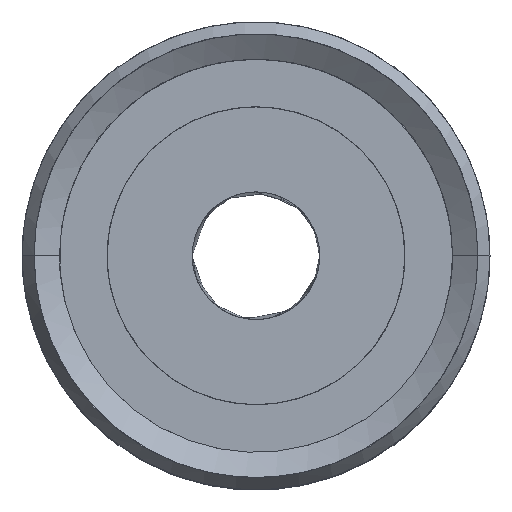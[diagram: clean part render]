
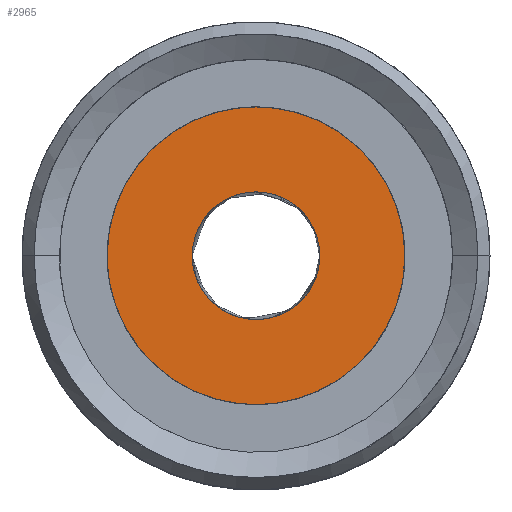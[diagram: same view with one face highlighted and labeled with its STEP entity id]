
A CAD part, top view. The second image highlights one B-rep face of the part: STEP entity #2965.
In plain terms, the highlighted planar face has unit normal (0, 0, 1) as drawn and (1, 0, 0) by its records, which use the part's own axes.
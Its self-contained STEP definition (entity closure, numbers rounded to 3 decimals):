
#15=PLANE('',#11132);
#40=FACE_BOUND('',#3463,.T.);
#2965=ADVANCED_FACE('',(#3213,#40),#15,.T.);
#3213=FACE_OUTER_BOUND('',#3462,.T.);
#3462=EDGE_LOOP('',(#4290));
#3463=EDGE_LOOP('',(#4291));
#4290=ORIENTED_EDGE('',*,*,#8430,.T.);
#4291=ORIENTED_EDGE('',*,*,#8431,.T.);
#4786=(
BOUNDED_CURVE()
B_SPLINE_CURVE(2,(#20374,#20375,#20376,#20377,#20378,#20379,#20380,#20381,
#20382),.UNSPECIFIED.,.T.,.F.)
B_SPLINE_CURVE_WITH_KNOTS((3,2,2,2,3),(3.142,4.712,
6.283,7.854,9.425),.UNSPECIFIED.)
CURVE()
GEOMETRIC_REPRESENTATION_ITEM()
RATIONAL_B_SPLINE_CURVE((1.,0.707,1.,0.707,1.,0.707,
1.,0.707,1.))
REPRESENTATION_ITEM('')
);
#4787=(
BOUNDED_CURVE()
B_SPLINE_CURVE(2,(#20383,#20384,#20385,#20386,#20387,#20388,#20389,#20390,
#20391),.UNSPECIFIED.,.T.,.F.)
B_SPLINE_CURVE_WITH_KNOTS((3,2,2,2,3),(3.142,4.712,
6.283,7.854,9.425),.UNSPECIFIED.)
CURVE()
GEOMETRIC_REPRESENTATION_ITEM()
RATIONAL_B_SPLINE_CURVE((1.,0.707,1.,0.707,1.,0.707,
1.,0.707,1.))
REPRESENTATION_ITEM('')
);
#4788=(
BOUNDED_CURVE()
B_SPLINE_CURVE(2,(#20392,#20393,#20394,#20395,#20396,#20397,#20398,#20399,
#20400),.UNSPECIFIED.,.T.,.F.)
B_SPLINE_CURVE_WITH_KNOTS((3,2,2,2,3),(0.,1.571,3.142,
4.712,6.283),.UNSPECIFIED.)
CURVE()
GEOMETRIC_REPRESENTATION_ITEM()
RATIONAL_B_SPLINE_CURVE((1.,0.707,1.,0.707,1.,0.707,
1.,0.707,1.))
REPRESENTATION_ITEM('')
);
#4789=(
BOUNDED_CURVE()
B_SPLINE_CURVE(2,(#20401,#20402,#20403,#20404,#20405,#20406,#20407,#20408,
#20409),.UNSPECIFIED.,.T.,.F.)
B_SPLINE_CURVE_WITH_KNOTS((3,2,2,2,3),(0.,1.571,3.142,
4.712,6.283),.UNSPECIFIED.)
CURVE()
GEOMETRIC_REPRESENTATION_ITEM()
RATIONAL_B_SPLINE_CURVE((1.,0.707,1.,0.707,1.,0.707,
1.,0.707,1.))
REPRESENTATION_ITEM('')
);
#5679=PCURVE('',#15,#6596);
#5680=PCURVE('',#15,#6597);
#6596=DEFINITIONAL_REPRESENTATION('',(#4787),#23812);
#6597=DEFINITIONAL_REPRESENTATION('',(#4789),#23812);
#7513=SURFACE_CURVE('',#4786,(#5679),.PCURVE_S1.);
#7514=SURFACE_CURVE('',#4788,(#5680),.PCURVE_S1.);
#8430=EDGE_CURVE('',#10709,#10709,#7513,.T.);
#8431=EDGE_CURVE('',#10710,#10710,#7514,.T.);
#10709=VERTEX_POINT('',#20372);
#10710=VERTEX_POINT('',#20373);
#11132=AXIS2_PLACEMENT_3D('',#20371,#11162,$);
#11162=DIRECTION('',(1.,0.,0.));
#20371=CARTESIAN_POINT('',(15.,7.,7.));
#20372=CARTESIAN_POINT('',(15.,-7.,0.));
#20373=CARTESIAN_POINT('',(15.,3.,0.));
#20374=CARTESIAN_POINT('',(15.,-7.,0.));
#20375=CARTESIAN_POINT('',(15.,-7.,-7.));
#20376=CARTESIAN_POINT('',(15.,0.,-7.));
#20377=CARTESIAN_POINT('',(15.,7.,-7.));
#20378=CARTESIAN_POINT('',(15.,7.,0.));
#20379=CARTESIAN_POINT('',(15.,7.,7.));
#20380=CARTESIAN_POINT('',(15.,0.,7.));
#20381=CARTESIAN_POINT('',(15.,-7.,7.));
#20382=CARTESIAN_POINT('',(15.,-7.,0.));
#20383=CARTESIAN_POINT('',(1.,0.5));
#20384=CARTESIAN_POINT('',(1.,1.));
#20385=CARTESIAN_POINT('',(0.5,1.));
#20386=CARTESIAN_POINT('',(0.,1.));
#20387=CARTESIAN_POINT('',(0.,0.5));
#20388=CARTESIAN_POINT('',(0.,0.));
#20389=CARTESIAN_POINT('',(0.5,0.));
#20390=CARTESIAN_POINT('',(1.,0.));
#20391=CARTESIAN_POINT('',(1.,0.5));
#20392=CARTESIAN_POINT('',(15.,3.,0.));
#20393=CARTESIAN_POINT('',(15.,3.,-3.));
#20394=CARTESIAN_POINT('',(15.,0.,-3.));
#20395=CARTESIAN_POINT('',(15.,-3.,-3.));
#20396=CARTESIAN_POINT('',(15.,-3.,0.));
#20397=CARTESIAN_POINT('',(15.,-3.,3.));
#20398=CARTESIAN_POINT('',(15.,0.,3.));
#20399=CARTESIAN_POINT('',(15.,3.,3.));
#20400=CARTESIAN_POINT('',(15.,3.,0.));
#20401=CARTESIAN_POINT('',(0.286,0.5));
#20402=CARTESIAN_POINT('',(0.286,0.714));
#20403=CARTESIAN_POINT('',(0.5,0.714));
#20404=CARTESIAN_POINT('',(0.714,0.714));
#20405=CARTESIAN_POINT('',(0.714,0.5));
#20406=CARTESIAN_POINT('',(0.714,0.286));
#20407=CARTESIAN_POINT('',(0.5,0.286));
#20408=CARTESIAN_POINT('',(0.286,0.286));
#20409=CARTESIAN_POINT('',(0.286,0.5));
#23812=(
GEOMETRIC_REPRESENTATION_CONTEXT(2)
PARAMETRIC_REPRESENTATION_CONTEXT()
REPRESENTATION_CONTEXT('pspace','')
);
